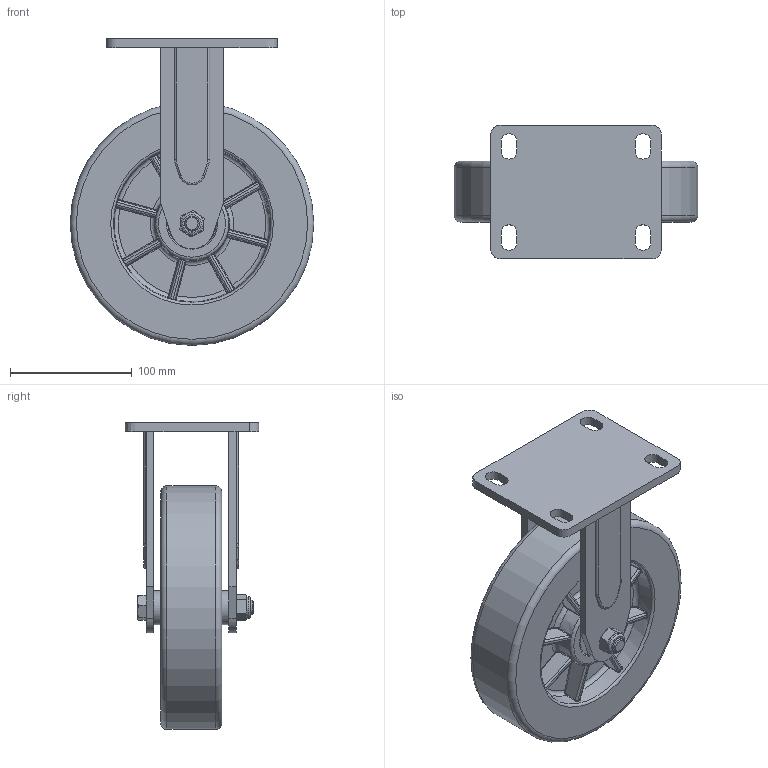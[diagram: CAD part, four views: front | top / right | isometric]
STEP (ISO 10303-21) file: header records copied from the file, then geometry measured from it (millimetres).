
FILE_DESCRIPTION(/* description */ (''),/* implementation_level */ '2;1');
FILE_NAME(/* name */ '36A12_8_F.stp',/* time_stamp */ '2022-08-29T09:06:19+08:00',/* author */ (''),/* organization */ (''),/* preprocessor_version */ 'ST-DEVELOPER v14',/* originating_system */ 'SIEMENS PLM Software NX 8.0',/* authorisation */ '');
FILE_SCHEMA (('AUTOMOTIVE_DESIGN { 1 0 10303 214 3 1 1 1 }'));
Products named in the file (1): 36A12_8_F
Bounding box: 200 x 110 x 252 mm (x, y, z)
Volume: 1414406.9 mm3; surface area: 257442.9 mm2
Topology: 1 solids, 5 shells, 2716 faces, 6996 edges, 4084 vertices
Faces by surface type: plane 1744, bspline 497, cylinder 377, torus 49, cone 47, extrusion 2
Full cylindrical faces by diameter (mm): 12 x3, 12.3 x3, 18 x1, 20.5 x2, 28 x2, 39.85 x2, 173.266 x2, 173.786 x2, 200 x1
Entity records: 96821 total; most frequent: CARTESIAN_POINT 34687, ORIENTED_EDGE 13860, DIRECTION 11645, EDGE_CURVE 6930, VECTOR 4599, LINE 4597, VERTEX_POINT 4060, AXIS2_PLACEMENT_3D 3523
